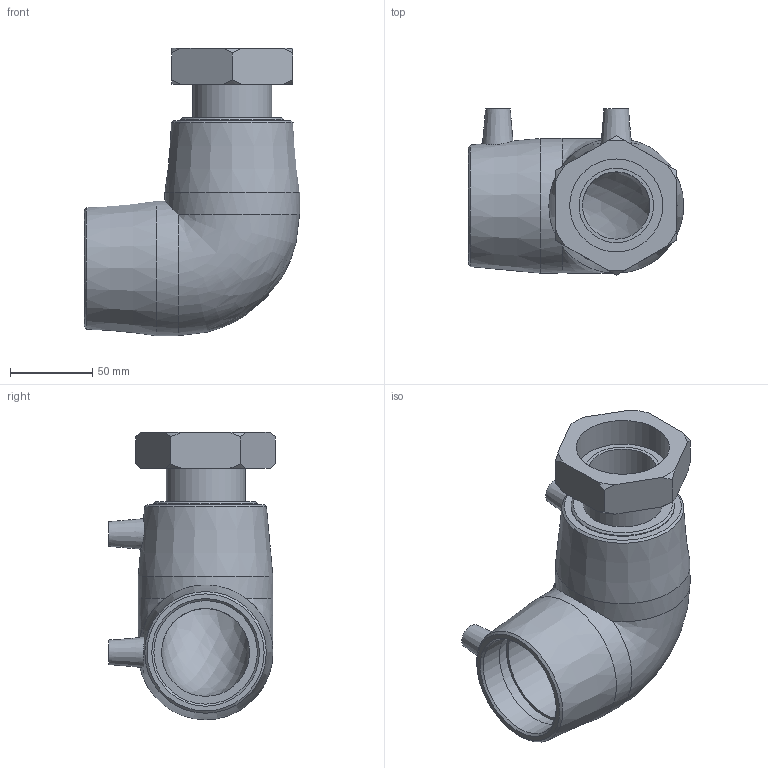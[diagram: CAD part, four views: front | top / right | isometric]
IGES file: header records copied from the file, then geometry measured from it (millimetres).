
Global section: file name: 494504063020.ipt; native system: Autodesk Inventor 2015; preprocessor: unknown; author: KIM; date: 20180426.120819; units: millimetre
Bounding box: 131 x 101.49 x 175 mm (x, y, z)
Volume: 535835.8 mm3; surface area: 102882.4 mm2
Topology: 1 solids, 2 shells, 61 faces, 146 edges, 98 vertices
Faces by surface type: plane 23, cone 19, revolution 10, cylinder 8, bspline 1
Full cylindrical faces by diameter (mm): 4 x2, 45.325 x1, 48.158 x1, 63 x2, 82 x2
